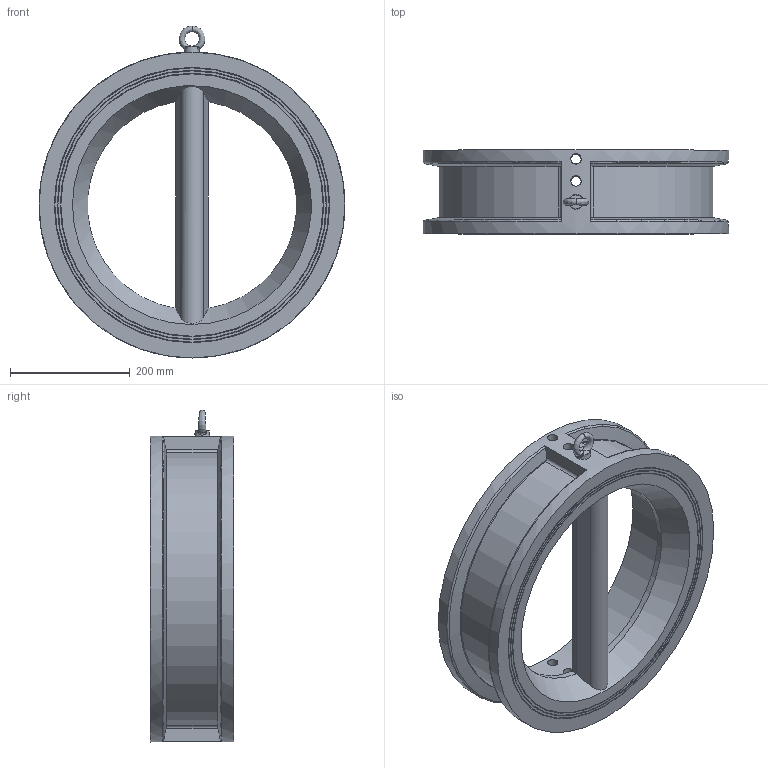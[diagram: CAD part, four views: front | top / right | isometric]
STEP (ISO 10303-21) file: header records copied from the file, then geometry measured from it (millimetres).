
FILE_DESCRIPTION (( 'STEP AP203' ), '1' );
FILE_NAME ('5306 DN400 ×°Åä PN25.STEP', '2026-05-09T02:24:02', ( '' ), ( '' ), 'SwSTEP 2.0', 'SolidWorks 2018', '' );
FILE_SCHEMA (( 'CONFIG_CONTROL_DESIGN' ));
Length unit declared in the file: millimetre
Products named in the file (3): GB╱T 825-1988[吊环螺钉M10]_M10; 5306 DN400 概极 PN25; 5306 DN400 蚾饜 PN25
Assembly tree (2 placements, depth 2):
  5306 DN400 蚾饜 PN25
    5306 DN400 概极 PN25
    GB╱T 825-1988[吊环螺钉M10]_M10
Bounding box: 512 x 140 x 555.6 mm (x, y, z)
Volume: 8953664.3 mm3; surface area: 728199.3 mm2
Topology: 2 solids, 2 shells, 95 faces, 222 edges, 133 vertices
Faces by surface type: cone 27, cylinder 22, plane 19, bspline 16, torus 11
Full cylindrical faces by diameter (mm): 8.5 x1, 10 x1, 15 x1, 17 x4, 17.5 x4, 410 x1, 512 x1
Entity records: 5484 total; most frequent: CARTESIAN_POINT 3381, ORIENTED_EDGE 344, DIRECTION 334, EDGE_CURVE 172, AXIS2_PLACEMENT_3D 156, EDGE_LOOP 153, VERTEX_POINT 125, FACE_OUTER_BOUND 111
